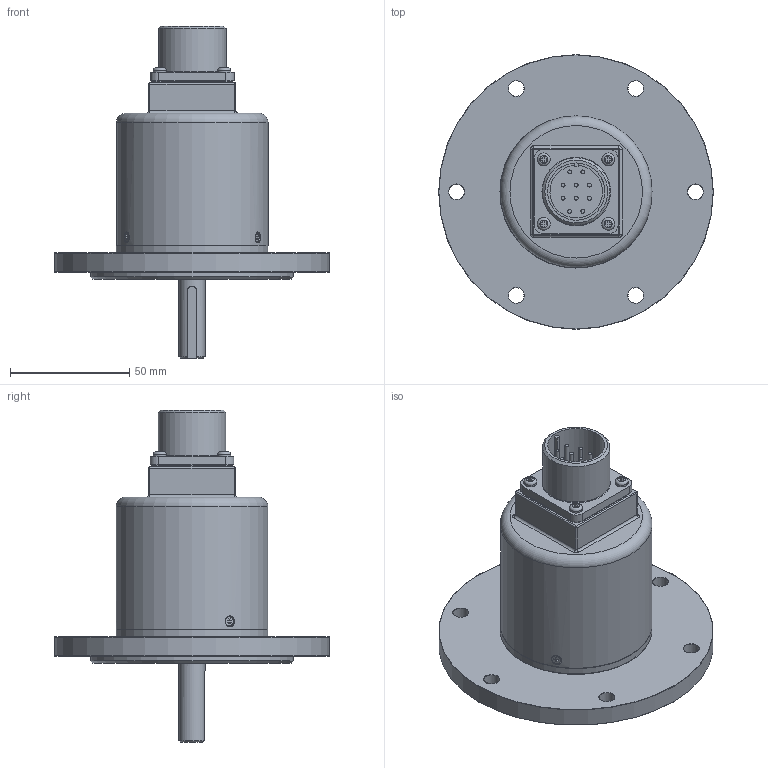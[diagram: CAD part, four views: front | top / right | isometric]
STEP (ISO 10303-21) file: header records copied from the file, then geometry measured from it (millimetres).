
FILE_DESCRIPTION(('FreeCAD Model'),'2;1');
FILE_NAME('Open CASCADE Shape Model','2026-08-04T14:07:38',(''),(''), 'Open CASCADE STEP processor 7.8','FreeCAD','Unknown');
FILE_SCHEMA(('AUTOMOTIVE_DESIGN { 1 0 10303 214 1 1 1 1 }'));
Length unit declared in the file: millimetre
Products named in the file (11): Assembly; 10 Pin MS Gasket; 10 Pin Male MS Connector; Connector Screw; 725 Lid Screw; Black Lid End 10 Pin; 744 REO Body; 740 Series Bearing; 11mm Dia Shaft with Keyway for 744; Disc Hub; Disc Hub Grub Screw
Assembly tree (17 placements, depth 2):
  Assembly
    10 Pin MS Gasket
    10 Pin Male MS Connector
    Connector Screw  x4
    725 Lid Screw  x3
    Black Lid End 10 Pin
    744 REO Body
    740 Series Bearing  x2
    11mm Dia Shaft with Keyway for 744
    Disc Hub
    Disc Hub Grub Screw  x2
Bounding box: 115 x 115 x 139 mm (x, y, z)
Volume: 204628.6 mm3; surface area: 79349.3 mm2
Topology: 17 solids, 17 shells, 986 faces, 2104 edges, 1197 vertices
Faces by surface type: bspline 417, cylinder 260, plane 206, torus 61, cone 36, sphere 4, revolution 2
Full cylindrical faces by diameter (mm): 1.45 x5, 1.6 x10, 1.85 x6, 2.1 x6, 2.35 x2, 2.5 x7, 2.52 x116, 2.7 x4, 2.85 x4, 3 x3, 3.2 x4, 3.3 x2, 3.5 x4, 3.8 x3, 5.4 x4, 6.5 x6, 7.87 x1, 9.525 x2, 11 x1, 12 x4, 15 x1, 16.45 x1, 16.5 x4, 22 x1, 23.8 x4, 24 x1, 25 x2, 26 x1, 26.6 x1, 28 x4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
Entity records: 69393 total; most frequent: CARTESIAN_POINT 54007, ORIENTED_EDGE 3600, DIRECTION 2010, EDGE_CURVE 1800, B_SPLINE_CURVE_WITH_KNOTS 1042, VERTEX_POINT 1014, FACE_BOUND 964, EDGE_LOOP 964
